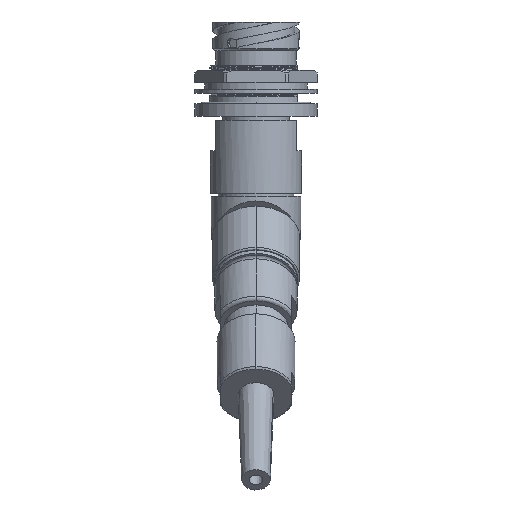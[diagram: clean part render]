
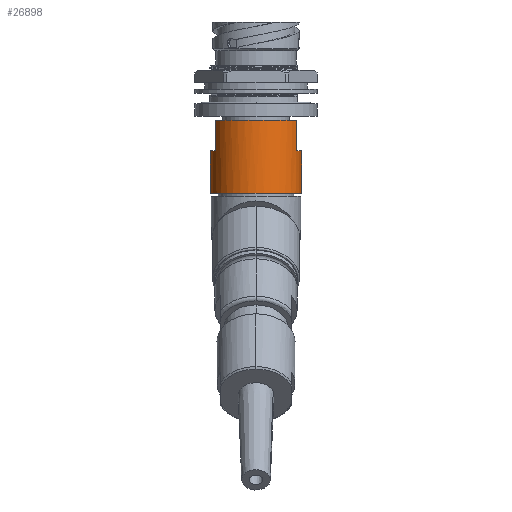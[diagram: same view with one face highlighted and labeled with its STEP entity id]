
A CAD part, front view. The second image highlights one B-rep face of the part: STEP entity #26898.
In plain terms, the highlighted cylindrical face has radius 14.097 mm (diameter 28.194 mm), a partial arc.
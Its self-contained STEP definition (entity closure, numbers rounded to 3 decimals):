
#278 = CARTESIAN_POINT ( 'NONE',  ( 0., 0., -39.853 ) ) ;
#381 = CARTESIAN_POINT ( 'NONE',  ( 14.097, 0., -30.328 ) ) ;
#868 = CARTESIAN_POINT ( 'NONE',  ( 14.097, 0., -39.853 ) ) ;
#937 = ORIENTED_EDGE ( 'NONE', *, *, #25888, .F. ) ;
#1772 = DIRECTION ( 'NONE',  ( 0., 0., -1. ) ) ;
#2791 = CARTESIAN_POINT ( 'NONE',  ( -14.097, 0., -53.01 ) ) ;
#3787 = CARTESIAN_POINT ( 'NONE',  ( 14.097, 0., -53.01 ) ) ;
#3847 = CARTESIAN_POINT ( 'NONE',  ( -12.446, -6.62, -30.328 ) ) ;
#4251 = CARTESIAN_POINT ( 'NONE',  ( 0., 0., -53.01 ) ) ;
#4266 = EDGE_CURVE ( 'NONE', #25790, #17676, #8531, .T. ) ;
#4390 = DIRECTION ( 'NONE',  ( 0., 0., -1. ) ) ;
#4791 = DIRECTION ( 'NONE',  ( 0., 0., -1. ) ) ;
#5219 = EDGE_CURVE ( 'NONE', #11714, #25790, #17596, .T. ) ;
#5673 = AXIS2_PLACEMENT_3D ( 'NONE', #10448, #16950, #14605 ) ;
#6328 = DIRECTION ( 'NONE',  ( 1., 0., 0. ) ) ;
#6361 = DIRECTION ( 'NONE',  ( 0., 0., 1. ) ) ;
#6841 = AXIS2_PLACEMENT_3D ( 'NONE', #16486, #24920, #23610 ) ;
#7083 = CARTESIAN_POINT ( 'NONE',  ( 12.446, -6.62, -39.853 ) ) ;
#7425 = VERTEX_POINT ( 'NONE', #3847 ) ;
#7771 = LINE ( 'NONE', #13991, #26630 ) ;
#8531 = LINE ( 'NONE', #381, #18088 ) ;
#8573 = LINE ( 'NONE', #17430, #11012 ) ;
#9471 = CIRCLE ( 'NONE', #15221, 14.097 ) ;
#9916 = CARTESIAN_POINT ( 'NONE',  ( 12.446, -6.62, -30.328 ) ) ;
#10064 = ORIENTED_EDGE ( 'NONE', *, *, #4266, .F. ) ;
#10387 = CARTESIAN_POINT ( 'NONE',  ( -12.446, -6.62, -39.853 ) ) ;
#10448 = CARTESIAN_POINT ( 'NONE',  ( 0., 0., -39.853 ) ) ;
#11012 = VECTOR ( 'NONE', #11194, 1000. ) ;
#11016 = LINE ( 'NONE', #25948, #16988 ) ;
#11194 = DIRECTION ( 'NONE',  ( 0., 0., -1. ) ) ;
#11714 = VERTEX_POINT ( 'NONE', #7083 ) ;
#12049 = CARTESIAN_POINT ( 'NONE',  ( -14.097, 0., -39.853 ) ) ;
#12493 = ORIENTED_EDGE ( 'NONE', *, *, #13509, .F. ) ;
#12832 = EDGE_CURVE ( 'NONE', #17676, #18023, #13658, .T. ) ;
#12849 = DIRECTION ( 'NONE',  ( 0., 1., 0. ) ) ;
#13509 = EDGE_CURVE ( 'NONE', #21278, #11714, #8573, .T. ) ;
#13658 = CIRCLE ( 'NONE', #15011, 14.097 ) ;
#13991 = CARTESIAN_POINT ( 'NONE',  ( -12.446, -6.62, -30.328 ) ) ;
#14605 = DIRECTION ( 'NONE',  ( 1., 0., 0. ) ) ;
#14622 = CYLINDRICAL_SURFACE ( 'NONE', #20911, 14.097 ) ;
#15011 = AXIS2_PLACEMENT_3D ( 'NONE', #4251, #1772, #6328 ) ;
#15221 = AXIS2_PLACEMENT_3D ( 'NONE', #278, #6361, #12849 ) ;
#16285 = FACE_OUTER_BOUND ( 'NONE', #25972, .T. ) ;
#16486 = CARTESIAN_POINT ( 'NONE',  ( 0., 0., -30.328 ) ) ;
#16950 = DIRECTION ( 'NONE',  ( 0., 0., 1. ) ) ;
#16988 = VECTOR ( 'NONE', #4791, 1000. ) ;
#17392 = ORIENTED_EDGE ( 'NONE', *, *, #19504, .F. ) ;
#17430 = CARTESIAN_POINT ( 'NONE',  ( 12.446, -6.62, -30.328 ) ) ;
#17596 = CIRCLE ( 'NONE', #5673, 14.097 ) ;
#17676 = VERTEX_POINT ( 'NONE', #3787 ) ;
#18023 = VERTEX_POINT ( 'NONE', #2791 ) ;
#18088 = VECTOR ( 'NONE', #4390, 1000. ) ;
#18602 = EDGE_CURVE ( 'NONE', #22524, #18023, #11016, .T. ) ;
#19504 = EDGE_CURVE ( 'NONE', #22524, #22448, #9471, .T. ) ;
#20445 = CARTESIAN_POINT ( 'NONE',  ( 0., 0., -30.328 ) ) ;
#20467 = EDGE_CURVE ( 'NONE', #21278, #7425, #23620, .T. ) ;
#20508 = DIRECTION ( 'NONE',  ( 0., 0., 1. ) ) ;
#20853 = DIRECTION ( 'NONE',  ( 0., 0., -1. ) ) ;
#20911 = AXIS2_PLACEMENT_3D ( 'NONE', #20445, #20853, #24578 ) ;
#21278 = VERTEX_POINT ( 'NONE', #9916 ) ;
#22448 = VERTEX_POINT ( 'NONE', #10387 ) ;
#22524 = VERTEX_POINT ( 'NONE', #12049 ) ;
#23610 = DIRECTION ( 'NONE',  ( 1., 0., 0. ) ) ;
#23620 = CIRCLE ( 'NONE', #6841, 14.097 ) ;
#24125 = ORIENTED_EDGE ( 'NONE', *, *, #5219, .F. ) ;
#24329 = ORIENTED_EDGE ( 'NONE', *, *, #18602, .T. ) ;
#24578 = DIRECTION ( 'NONE',  ( 1., 0., 0. ) ) ;
#24715 = ORIENTED_EDGE ( 'NONE', *, *, #20467, .T. ) ;
#24920 = DIRECTION ( 'NONE',  ( 0., 0., -1. ) ) ;
#25790 = VERTEX_POINT ( 'NONE', #868 ) ;
#25888 = EDGE_CURVE ( 'NONE', #22448, #7425, #7771, .T. ) ;
#25939 = ORIENTED_EDGE ( 'NONE', *, *, #12832, .F. ) ;
#25948 = CARTESIAN_POINT ( 'NONE',  ( -14.097, 0., -30.328 ) ) ;
#25972 = EDGE_LOOP ( 'NONE', ( #17392, #24329, #25939, #10064, #24125, #12493, #24715, #937 ) ) ;
#26630 = VECTOR ( 'NONE', #20508, 1000. ) ;
#26898 = ADVANCED_FACE ( 'NONE', ( #16285 ), #14622, .T. ) ;
